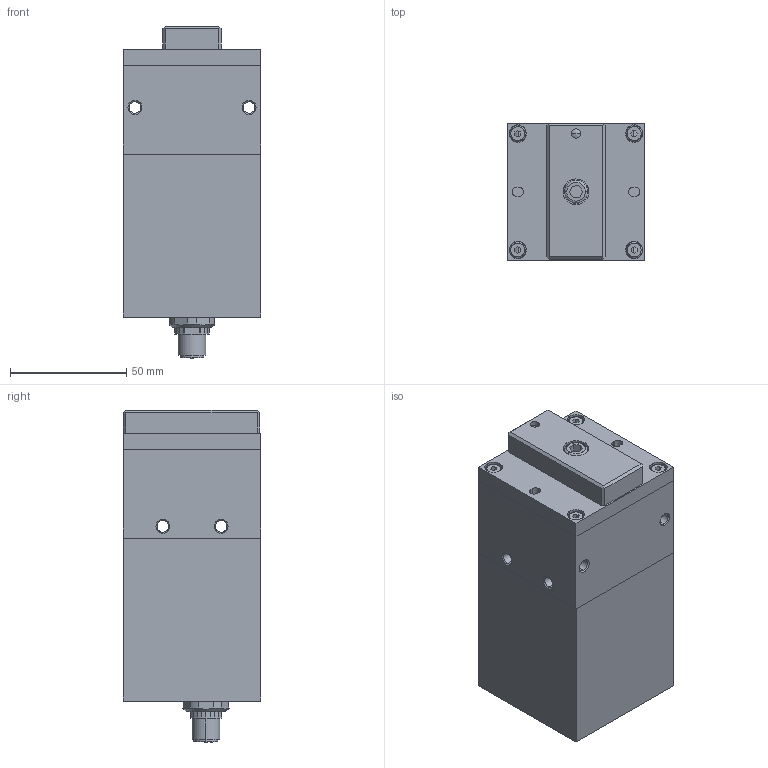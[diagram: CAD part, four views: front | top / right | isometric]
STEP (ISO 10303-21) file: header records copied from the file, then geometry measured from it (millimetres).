
FILE_DESCRIPTION (( 'STEP AP203' ), '1' );
FILE_NAME ('ELDQ-300.STEP', '2020-04-27T09:42:36', ( '' ), ( '' ), 'SwSTEP 2.0', 'SolidWorks 2017', '' );
FILE_SCHEMA (( 'CONFIG_CONTROL_DESIGN' ));
Length unit declared in the file: millimetre
Products named in the file (1): ELDQ-300
Bounding box: 59 x 59 x 142.6 mm (x, y, z)
Surface area: 43337.6 mm2 (no closed solid volume)
Topology: 0 solids, 26 shells, 264 faces, 764 edges, 521 vertices
Faces by surface type: plane 144, cylinder 80, cone 28, bspline 12
Entity records: 10408 total; most frequent: CARTESIAN_POINT 3451, DIRECTION 1447, ORIENTED_EDGE 1263, EDGE_CURVE 762, VERTEX_POINT 521, AXIS2_PLACEMENT_3D 487, VECTOR 473, LINE 473
